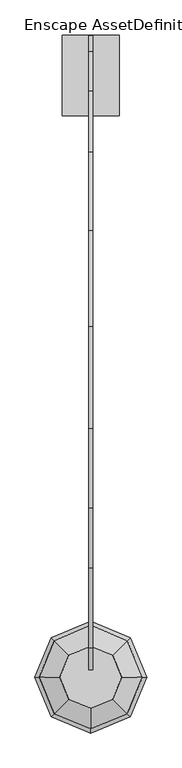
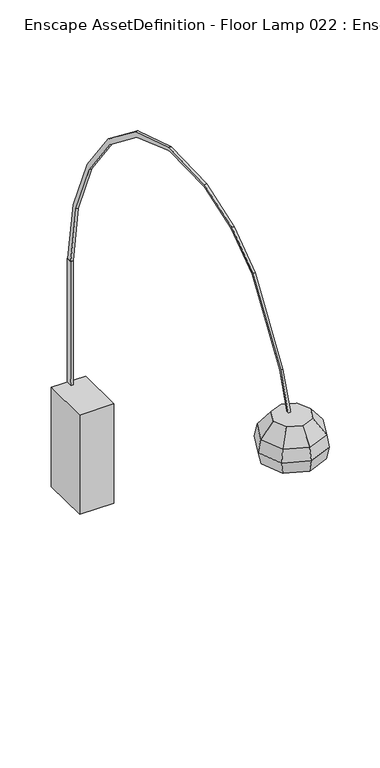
"""IFC4 building model written with IfcOpenShell, lengths in millimetres: geographic element geometry, Enscape AssetDefinition - Floor Lamp 022 : Enscape AssetDefinition - Floor Lamp 022."""

from ifc_helpers import new_model, si_unit, origin, place, context, project, spatial, triangles, source, transform, mapped, element, save


def enscape_assetdefinition_floor_lamp_022_enscape_d7bdce68(model_context):
    return source(origin(), model_context, "Body", "Tessellation", [
        triangles([(6.3400001, 1144.7219879, 491.5899794), (-6.3400001, 1115.4780607, 1186.4629721), (6.3400001, 1144.7219879, 1186.4629721), (-6.3400001, 1144.7219879, 1186.4629721), (-6.3400001, 1115.4780607, 491.5899794), (-6.3400001, 1144.7219879, 491.5899794), (6.3400001, 1115.4780607, 1186.4629721), (6.3400001, 1115.4780607, 491.5899794), (-5.7999997, 1096.2860636, 1500.7629009), (-5.7999997, 953.6920057, 1773.8049557), (5.7999997, 1096.2860636, 1500.7629009), (5.7999997, 1116.2140623, 1186.5479959), (5.7999997, 1143.4700294, 1186.5110069), (-5.7999997, 1116.2140623, 1186.5479959), (-5.7999997, 1143.4700294, 1186.5110069), (-5.7999997, 1071.3150587, 1492.9049503), (5.7999997, 1071.3150587, 1492.9049503), (5.7999997, 953.6920057, 1773.8049557), (5.7999997, 775.1449825, 2014.7258606), (-5.7999997, 790.56003, 2035.3459682), (-5.7999997, 974.3299902, 1788.7370384), (5.7999997, 974.3299902, 1788.7370384), (5.7999997, 790.56003, 2035.3459682), (-5.7999997, 775.1449825, 2014.7258606), (5.7999997, 542.4699769, 2195.1529289), (5.7999997, 552.0939898, 2219.7339867), (-5.7999997, 542.4699769, 2195.1529289), (-5.7999997, 552.0939898, 2219.7339867), (5.7999997, 261.1429991, 2312.3021736), (5.7999997, 259.02, 2294.4560246), (-5.7999997, 259.02, 2294.4560246), (-5.7999997, 261.1429991, 2312.3021736), (5.7999997, -46.7329987, 2301.0070782), (5.7999997, -281.572021, 2207.0580162), (5.7999997, -44.5299991, 2288.9421169), (-5.7999997, -44.5299991, 2288.9421169), (-5.7999997, -281.572021, 2207.0580162), (-5.7999997, -46.7329987, 2301.0070782), (-5.7999997, -287.5370094, 2219.0690563), (5.7999997, -287.5370094, 2219.0690563), (5.7999997, -469.7150064, 2084.2759758), (5.7999997, -463.3070037, 2076.786026), (-5.7999997, -469.7150064, 2084.2759758), (-5.7999997, -463.3070037, 2076.786026), (-5.7999997, -711.8769693, 1718.1800079), (-5.7999997, -702.6709906, 1713.6500519), (-5.7999997, -771.8279612, 1525.5640034), (5.7999997, -702.6709906, 1713.6500519), (5.7999997, -711.8769693, 1718.1800079), (-5.7999997, -779.524003, 1526.6280373), (5.7999997, -771.8279612, 1525.5640034), (5.7999997, -779.524003, 1526.6280373), (119.7650007, -679.6180372, 1388.7159611), (156.4810009, -799.3829653, 1453.5319176), (94.0989983, -799.3829653, 1529.5450104), (119.7650007, -919.1480387, 1388.7159611), (110.6489965, -910.0319527, 1453.5319176), (66.5379989, -865.921055, 1529.5450104), (109.0570061, -908.4399714, 1323.8989872), (169.3740003, -799.3829653, 1388.7159611), (154.2299937, -799.3829653, 1323.8989872), (0.0, -953.6130135, 1323.8989872), (-109.0570061, -908.4399714, 1323.8989872), (109.0570061, -690.3259592, 1323.8989872), (-109.0570061, -690.3259592, 1323.8989872), (0.0, -645.1529898, 1323.8989872), (0.0, -630.0090014, 1388.7159611), (110.6489965, -688.7339779, 1453.5319176), (0.0, -642.902037, 1453.5319176), (-119.7650007, -679.6180372, 1388.7159611), (-110.6489965, -688.7339779, 1453.5319176), (0.0, -705.2839851, 1529.5450104), (-66.5379989, -732.8450209, 1529.5450104), (-156.4810009, -799.3829653, 1453.5319176), (-94.0989983, -799.3829653, 1529.5450104), (66.5379989, -732.8450209, 1529.5450104), (0.0, -893.4820181, 1529.5450104), (0.0, -955.8640388, 1453.5319176), (-110.6489965, -910.0319527, 1453.5319176), (-66.5379989, -865.921055, 1529.5450104), (-169.3730011, -799.3829653, 1388.7159611), (-119.7650007, -919.1480387, 1388.7159611), (0.0, -968.7570019, 1388.7159611), (-154.2299937, -799.3829653, 1323.8989872), (-85.9229985, 901.2690428, 0.0), (85.9229985, 901.2690428, 526.8210048), (85.9229985, 1145.5550039, 0.0), (85.9229985, 1145.5550039, 526.8210048), (-85.9229985, 1145.5550039, 0.0), (85.9229985, 901.2690428, 0.0), (-85.9229985, 1145.5550039, 526.8210048), (-85.9229985, 901.2690428, 526.8210048)], [[90, 86, 92], [89, 91, 88], [85, 92, 91], [87, 88, 86], [86, 88, 91], [89, 87, 90], [90, 92, 85], [89, 88, 87], [85, 91, 89], [87, 86, 90], [86, 91, 92], [89, 90, 85], [84, 63, 82], [84, 82, 81], [63, 62, 83], [63, 83, 82], [79, 82, 83], [74, 81, 82], [74, 82, 79], [74, 79, 80], [74, 80, 75], [80, 79, 78], [79, 83, 78], [80, 78, 77], [80, 77, 58], [78, 58, 77], [58, 55, 76], [76, 73, 58], [73, 75, 80], [73, 80, 58], [71, 74, 75], [71, 81, 74], [71, 75, 73], [76, 72, 73], [71, 73, 72], [68, 72, 76], [68, 69, 72], [71, 72, 69], [71, 70, 81], [69, 70, 71], [69, 67, 70], [68, 67, 69], [68, 53, 67], [66, 67, 53], [66, 70, 67], [63, 84, 65], [66, 65, 70], [65, 84, 81], [65, 81, 70], [65, 66, 64], [66, 53, 64], [64, 61, 65], [61, 64, 53], [59, 62, 63], [61, 59, 65], [59, 63, 65], [78, 83, 56], [62, 59, 56], [62, 56, 83], [59, 61, 60], [61, 53, 60], [59, 60, 56], [57, 56, 60], [78, 57, 58], [57, 55, 58], [78, 56, 57], [57, 54, 55], [54, 68, 76], [54, 60, 53], [54, 76, 55], [57, 60, 54], [54, 53, 68], [14, 12, 17], [47, 51, 52], [47, 52, 50], [46, 51, 47], [46, 48, 51], [50, 52, 49], [51, 48, 49], [51, 49, 52], [45, 46, 47], [50, 49, 45], [45, 47, 50], [45, 43, 44], [45, 44, 46], [44, 48, 46], [44, 42, 48], [49, 48, 42], [45, 49, 41], [45, 41, 43], [49, 42, 41], [39, 43, 41], [43, 39, 37], [37, 42, 44], [43, 37, 44], [37, 34, 42], [41, 42, 34], [39, 41, 40], [41, 34, 40], [39, 40, 33], [39, 33, 38], [39, 38, 36], [36, 34, 37], [39, 36, 37], [36, 35, 34], [40, 34, 35], [40, 35, 33], [38, 33, 29], [35, 29, 33], [38, 29, 32], [32, 36, 38], [32, 31, 36], [31, 35, 36], [31, 30, 35], [35, 30, 29], [27, 30, 31], [32, 29, 26], [30, 26, 29], [28, 27, 31], [32, 26, 28], [28, 31, 32], [20, 27, 28], [20, 24, 27], [21, 10, 24], [21, 24, 20], [27, 25, 30], [30, 25, 26], [24, 25, 27], [28, 26, 23], [28, 23, 20], [25, 23, 26], [24, 19, 25], [25, 19, 23], [10, 19, 24], [20, 23, 22], [20, 22, 21], [19, 22, 23], [10, 18, 19], [19, 18, 22], [16, 17, 18], [14, 17, 16], [16, 18, 10], [15, 14, 16], [15, 12, 14], [15, 13, 12], [13, 17, 12], [21, 22, 11], [18, 17, 11], [13, 11, 17], [18, 11, 22], [9, 11, 13], [9, 16, 10], [15, 16, 9], [9, 13, 15], [21, 11, 9], [9, 10, 21], [7, 8, 1], [4, 6, 5], [5, 8, 7], [1, 6, 4], [5, 6, 1], [7, 3, 4], [7, 1, 3], [4, 5, 2], [5, 7, 2], [1, 4, 3], [5, 1, 8], [7, 4, 2]]),
    ])


if __name__ == "__main__":
    model = new_model("IFC4")
    model_context = context("Model", 3, world=origin())
    ifc_project = project(units=[si_unit("LENGTHUNIT", "METRE", prefix="MILLI")], contexts=[model_context])
    site = spatial("IfcSite", under=ifc_project)
    building = spatial("IfcBuilding", under=site)
    placement = place(None, origin())
    enscape_assetdefinition_floor_lamp_022_enscape_shape = enscape_assetdefinition_floor_lamp_022_enscape_d7bdce68(model_context)
    element("IfcGeographicElement", 1, ObjectType="Enscape AssetDefinition - Floor Lamp 022 : Enscape AssetDefinition - Floor Lamp 022", at=placement, inside=building, context=model_context, shape_type="MappedRepresentation", body=[
        mapped(enscape_assetdefinition_floor_lamp_022_enscape_shape, transform((0.0, 0.0, 0.0), x_axis=(1.0, 0.0, 0.0), y_axis=(0.0, 1.0, 0.0), z_axis=(0.0, 0.0, 1.0))),
    ])
    save(model, "model.ifc")
